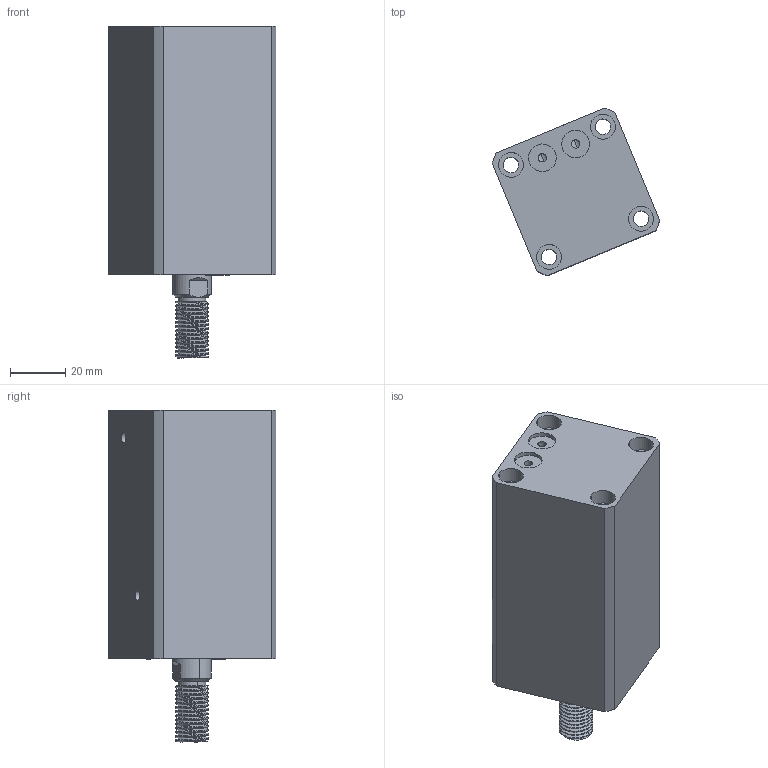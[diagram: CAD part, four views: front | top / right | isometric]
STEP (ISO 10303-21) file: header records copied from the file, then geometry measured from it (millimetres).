
FILE_DESCRIPTION (( 'STEP AP214' ), '1' );
FILE_NAME ('chtb-sdmb25x45w_asm.STEP', '2018-05-24T02:32:02', ( 'Windows' ), ( 'Microsoft' ), 'SwSTEP 2.0', 'SolidWorks 2015', '' );
FILE_SCHEMA (( 'AUTOMOTIVE_DESIGN' ));
Length unit declared in the file: millimetre
Products named in the file (4): CHTB-SDMB25X45WHSG; CHTB-SDMB25X45NBT; CHTB-25QG; chtb-sdmb25x45w_asm
Assembly tree (3 placements, depth 2):
  chtb-sdmb25x45w_asm
    CHTB-25QG
    CHTB-SDMB25X45NBT
    CHTB-SDMB25X45WHSG
Bounding box: 60.55 x 60.55 x 120 mm (x, y, z)
Volume: 181657 mm3; surface area: 47848.3 mm2
Topology: 3 solids, 3 shells, 176 faces, 476 edges, 323 vertices
Faces by surface type: cylinder 118, plane 37, bspline 12, cone 9
Entity records: 10721 total; most frequent: CARTESIAN_POINT 6406, ORIENTED_EDGE 944, DIRECTION 765, EDGE_CURVE 472, VERTEX_POINT 323, AXIS2_PLACEMENT_3D 310, EDGE_LOOP 215, ADVANCED_FACE 176
